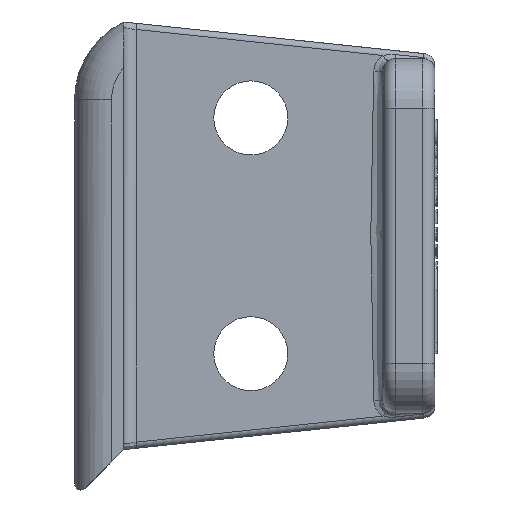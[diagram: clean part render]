
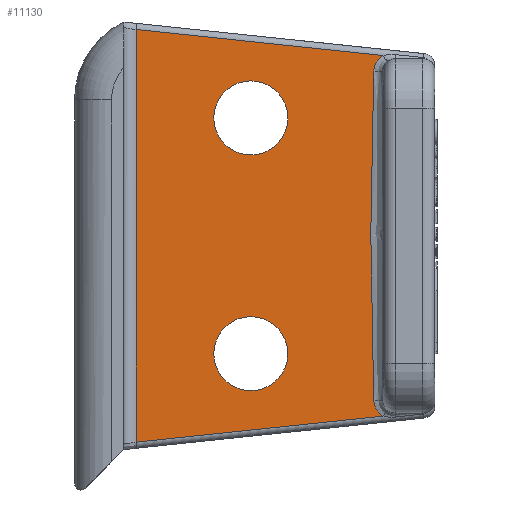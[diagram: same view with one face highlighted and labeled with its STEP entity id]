
A CAD part, left-side view. The second image highlights one B-rep face of the part: STEP entity #11130.
In plain terms, the highlighted planar face has unit normal (-1, 0, 0).
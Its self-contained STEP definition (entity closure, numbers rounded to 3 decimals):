
#597=CARTESIAN_POINT('',(-15.95,-21.005,-16.767));
#628=CARTESIAN_POINT('',(-15.95,-1.,14.557));
#650=CARTESIAN_POINT('',(-15.95,-1.,
-18.869));
#908=CARTESIAN_POINT('',(-15.95,-10.3,-11.706));
#909=DIRECTION('',(-1.,0.,0.));
#910=DIRECTION('',(0.,1.,0.));
#911=AXIS2_PLACEMENT_3D('',#908,#909,#910);
#913=CARTESIAN_POINT('',(-15.95,-10.3,-11.706));
#914=DIRECTION('',(-1.,0.,0.));
#915=DIRECTION('',(0.,-1.,0.));
#916=AXIS2_PLACEMENT_3D('',#913,#914,#915);
#918=CARTESIAN_POINT('',(-15.95,-10.3,7.394));
#919=DIRECTION('',(-1.,0.,0.));
#920=DIRECTION('',(0.,1.,0.));
#921=AXIS2_PLACEMENT_3D('',#918,#919,#920);
#923=CARTESIAN_POINT('',(-15.95,-10.3,7.394));
#924=DIRECTION('',(-1.,0.,0.));
#925=DIRECTION('',(0.,-1.,0.));
#926=AXIS2_PLACEMENT_3D('',#923,#924,#925);
#928=CARTESIAN_POINT('',(-15.95,-20.255,-15.506));
#929=CARTESIAN_POINT('',(-15.95,-20.259,
-15.541));
#930=CARTESIAN_POINT('',(-15.95,-20.267,
-15.61));
#931=CARTESIAN_POINT('',(-15.95,-20.286,
-15.712));
#932=CARTESIAN_POINT('',(-15.95,-20.311,
-15.813));
#933=CARTESIAN_POINT('',(-15.95,-20.342,
-15.911));
#934=CARTESIAN_POINT('',(-15.95,-20.378,
-16.007));
#935=CARTESIAN_POINT('',(-15.95,-20.42,
-16.1));
#936=CARTESIAN_POINT('',(-15.95,-20.467,
-16.19));
#937=CARTESIAN_POINT('',(-15.95,-20.519,
-16.277));
#938=CARTESIAN_POINT('',(-15.95,-20.576,
-16.36));
#939=CARTESIAN_POINT('',(-15.95,-20.638,
-16.439));
#940=CARTESIAN_POINT('',(-15.95,-20.703,
-16.514));
#941=CARTESIAN_POINT('',(-15.95,-20.773,
-16.585));
#942=CARTESIAN_POINT('',(-15.95,-20.847,
-16.65));
#943=CARTESIAN_POINT('',(-15.95,-20.924,
-16.711));
#944=CARTESIAN_POINT('',(-15.95,-20.978,
-16.749));
#945=CARTESIAN_POINT('',(-15.95,-21.005,-16.767));
#947=DIRECTION('',(0.,-0.995,0.105));
#948=VECTOR('',#947,20.115);
#949=CARTESIAN_POINT('',(-15.95,-1.,
-18.869));
#950=LINE('',#949,#948);
#951=DIRECTION('',(0.,0.,-1.));
#952=VECTOR('',#951,33.426);
#953=CARTESIAN_POINT('',(-15.95,-1.,14.557));
#954=LINE('',#953,#952);
#955=DIRECTION('',(0.,0.995,0.105));
#956=VECTOR('',#955,20.115);
#957=CARTESIAN_POINT('',(-15.95,-21.005,12.455));
#958=LINE('',#957,#956);
#959=CARTESIAN_POINT('',(-15.95,-21.005,12.455));
#960=CARTESIAN_POINT('',(-15.95,-20.978,12.437));
#961=CARTESIAN_POINT('',(-15.95,-20.924,12.399));
#962=CARTESIAN_POINT('',(-15.95,-20.847,12.338));
#963=CARTESIAN_POINT('',(-15.95,-20.773,12.272));
#964=CARTESIAN_POINT('',(-15.95,-20.703,12.201));
#965=CARTESIAN_POINT('',(-15.95,-20.637,12.126));
#966=CARTESIAN_POINT('',(-15.95,-20.576,12.047));
#967=CARTESIAN_POINT('',(-15.95,-20.519,11.964));
#968=CARTESIAN_POINT('',(-15.95,-20.467,11.877));
#969=CARTESIAN_POINT('',(-15.95,-20.42,11.787));
#970=CARTESIAN_POINT('',(-15.95,-20.378,11.694));
#971=CARTESIAN_POINT('',(-15.95,-20.342,11.598));
#972=CARTESIAN_POINT('',(-15.95,-20.311,11.5));
#973=CARTESIAN_POINT('',(-15.95,-20.286,11.4));
#974=CARTESIAN_POINT('',(-15.95,-20.267,11.297));
#975=CARTESIAN_POINT('',(-15.95,-20.259,11.229));
#976=CARTESIAN_POINT('',(-15.95,-20.255,11.194));
#978=CARTESIAN_POINT('',(-15.95,-20.255,11.194));
#979=CARTESIAN_POINT('',(-15.95,-20.221,10.829));
#980=CARTESIAN_POINT('',(-15.95,-20.157,10.049));
#981=CARTESIAN_POINT('',(-15.95,-20.086,8.754));
#982=CARTESIAN_POINT('',(-15.95,-20.04,7.264));
#983=CARTESIAN_POINT('',(-15.95,-20.02,5.55));
#984=CARTESIAN_POINT('',(-15.95,-20.02,3.61));
#985=CARTESIAN_POINT('',(-15.95,-20.02,1.504));
#986=CARTESIAN_POINT('',(-15.95,-20.02,-0.756));
#987=CARTESIAN_POINT('',(-15.95,-20.02,-3.219));
#988=CARTESIAN_POINT('',(-15.95,-20.02,-5.753));
#989=CARTESIAN_POINT('',(-15.95,-20.02,-7.925));
#990=CARTESIAN_POINT('',(-15.95,-20.02,-9.861));
#991=CARTESIAN_POINT('',(-15.95,-20.04,-11.575));
#992=CARTESIAN_POINT('',(-15.95,-20.086,-13.066));
#993=CARTESIAN_POINT('',(-15.95,-20.157,-14.361));
#994=CARTESIAN_POINT('',(-15.95,-20.221,-15.141));
#995=CARTESIAN_POINT('',(-15.95,-20.255,-15.506));
#7655=CARTESIAN_POINT('',(-15.95,-7.3,-11.706));
#7656=CARTESIAN_POINT('',(-15.95,-13.3,-11.706));
#7657=VERTEX_POINT('',#7655);
#7658=VERTEX_POINT('',#7656);
#7659=CARTESIAN_POINT('',(-15.95,-7.3,7.394));
#7660=CARTESIAN_POINT('',(-15.95,-13.3,7.394));
#7661=VERTEX_POINT('',#7659);
#7662=VERTEX_POINT('',#7660);
#9137=VERTEX_POINT('',#628);
#9152=VERTEX_POINT('',#650);
#9226=VERTEX_POINT('',#597);
#9228=VERTEX_POINT('',#928);
#9230=VERTEX_POINT('',#978);
#9232=VERTEX_POINT('',#959);
#11104=CARTESIAN_POINT('',(-15.95,0.,0.));
#11105=DIRECTION('',(1.,0.,0.));
#11106=DIRECTION('',(0.,1.,0.));
#11107=AXIS2_PLACEMENT_3D('',#11104,#11105,#11106);
#11108=PLANE('',#11107);
#11110=ORIENTED_EDGE('',*,*,#11109,.T.);
#11111=ORIENTED_EDGE('',*,*,#10643,.F.);
#11112=ORIENTED_EDGE('',*,*,#10712,.F.);
#11113=ORIENTED_EDGE('',*,*,#10177,.F.);
#11115=ORIENTED_EDGE('',*,*,#11114,.T.);
#11117=ORIENTED_EDGE('',*,*,#11116,.T.);
#11118=EDGE_LOOP('',(#11110,#11111,#11112,#11113,#11115,#11117));
#11119=FACE_OUTER_BOUND('',#11118,.F.);
#11121=ORIENTED_EDGE('',*,*,#11120,.T.);
#11123=ORIENTED_EDGE('',*,*,#11122,.T.);
#11124=EDGE_LOOP('',(#11121,#11123));
#11125=FACE_BOUND('',#11124,.F.);
#11126=ORIENTED_EDGE('',*,*,#11084,.T.);
#11127=ORIENTED_EDGE('',*,*,#11098,.T.);
#11128=EDGE_LOOP('',(#11126,#11127));
#11129=FACE_BOUND('',#11128,.F.);
#11130=ADVANCED_FACE('',(#11119,#11125,#11129),#11108,.F.);
#912=CIRCLE('',#911,3.);
#917=CIRCLE('',#916,3.);
#922=CIRCLE('',#921,3.);
#927=CIRCLE('',#926,3.);
#946=B_SPLINE_CURVE_WITH_KNOTS('',3,(#928,#929,#930,#931,#932,#933,#934,#935,
#936,#937,#938,#939,#940,#941,#942,#943,#944,#945),.UNSPECIFIED.,.F.,.F.,(4,1,1,
1,1,1,1,1,1,1,1,1,1,1,1,4),(0.,0.067,0.133,0.2,
0.267,0.333,0.4,0.467,0.533,
0.6,0.667,0.733,0.8,0.867,
0.933,1.),.UNSPECIFIED.);
#977=B_SPLINE_CURVE_WITH_KNOTS('',3,(#959,#960,#961,#962,#963,#964,#965,#966,
#967,#968,#969,#970,#971,#972,#973,#974,#975,#976),.UNSPECIFIED.,.F.,.F.,(4,1,1,
1,1,1,1,1,1,1,1,1,1,1,1,4),(0.,0.067,0.133,0.2,
0.267,0.333,0.4,0.467,0.533,
0.6,0.667,0.733,0.8,0.867,
0.933,1.),.UNSPECIFIED.);
#996=B_SPLINE_CURVE_WITH_KNOTS('',3,(#978,#979,#980,#981,#982,#983,#984,#985,
#986,#987,#988,#989,#990,#991,#992,#993,#994,#995),.UNSPECIFIED.,.F.,.F.,(4,1,1,
1,1,1,1,1,1,1,1,1,1,1,1,4),(0.,0.067,0.133,0.2,
0.267,0.333,0.4,0.467,0.533,
0.6,0.667,0.733,0.8,0.867,
0.933,1.),.UNSPECIFIED.);
#10177=EDGE_CURVE('',#9232,#9137,#958,.T.);
#10643=EDGE_CURVE('',#9152,#9226,#950,.T.);
#10712=EDGE_CURVE('',#9137,#9152,#954,.T.);
#11084=EDGE_CURVE('',#7657,#7658,#912,.T.);
#11098=EDGE_CURVE('',#7658,#7657,#917,.T.);
#11109=EDGE_CURVE('',#9228,#9226,#946,.T.);
#11114=EDGE_CURVE('',#9232,#9230,#977,.T.);
#11116=EDGE_CURVE('',#9230,#9228,#996,.T.);
#11120=EDGE_CURVE('',#7661,#7662,#922,.T.);
#11122=EDGE_CURVE('',#7662,#7661,#927,.T.);
